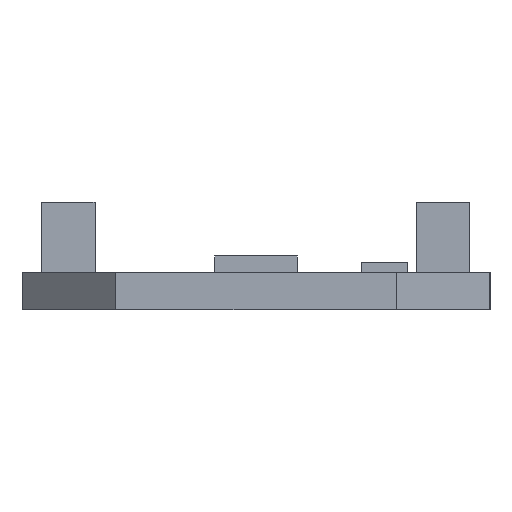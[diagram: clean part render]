
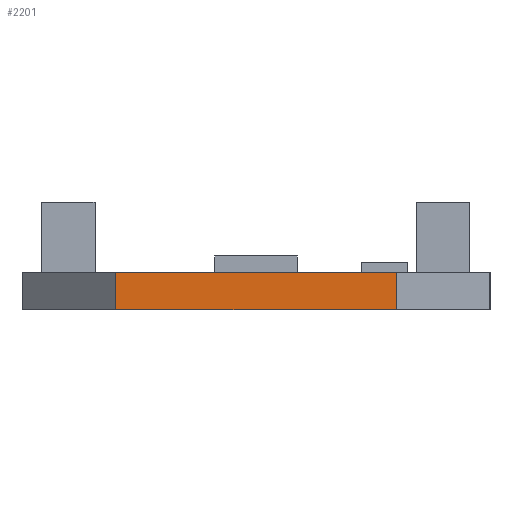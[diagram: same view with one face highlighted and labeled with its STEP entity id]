
A CAD part, left-side view. The second image highlights one B-rep face of the part: STEP entity #2201.
In plain terms, the highlighted planar face has unit normal (-1, 0, 0).
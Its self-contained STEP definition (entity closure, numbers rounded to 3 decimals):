
#2201 = ADVANCED_FACE ( 'NONE', ( #8991 ), #8764, .F. ) ;
#2751 = CARTESIAN_POINT ( 'NONE',  ( -0.007, 16., -1.6 ) ) ;
#2753 = LINE ( 'NONE', #27828, #5520 ) ;
#4727 = ORIENTED_EDGE ( 'NONE', *, *, #25449, .F. ) ;
#5289 = ORIENTED_EDGE ( 'NONE', *, *, #21859, .T. ) ;
#5488 = CARTESIAN_POINT ( 'NONE',  ( -0.007, 16., 0. ) ) ;
#5520 = VECTOR ( 'NONE', #23859, 1000. ) ;
#5972 = VERTEX_POINT ( 'NONE', #5488 ) ;
#6736 = VERTEX_POINT ( 'NONE', #28884 ) ;
#7948 = DIRECTION ( 'NONE',  ( 0., 0., 1. ) ) ;
#8764 = PLANE ( 'NONE',  #16057 ) ;
#8991 = FACE_OUTER_BOUND ( 'NONE', #39701, .T. ) ;
#14865 = DIRECTION ( 'NONE',  ( 0., -1., 0. ) ) ;
#16057 = AXIS2_PLACEMENT_3D ( 'NONE', #2751, #19456, #33635 ) ;
#16757 = CARTESIAN_POINT ( 'NONE',  ( -0.005, 3.995, 0. ) ) ;
#19456 = DIRECTION ( 'NONE',  ( 1., 0., 0. ) ) ;
#19565 = ORIENTED_EDGE ( 'NONE', *, *, #42800, .F. ) ;
#19803 = LINE ( 'NONE', #30275, #38991 ) ;
#19818 = VECTOR ( 'NONE', #14865, 1000. ) ;
#20822 = ORIENTED_EDGE ( 'NONE', *, *, #35750, .T. ) ;
#21859 = EDGE_CURVE ( 'NONE', #29324, #41334, #40213, .T. ) ;
#22571 = CARTESIAN_POINT ( 'NONE',  ( -0.005, 3.995, -1.6 ) ) ;
#23859 = DIRECTION ( 'NONE',  ( 0., -1., 0. ) ) ;
#25449 = EDGE_CURVE ( 'NONE', #6736, #5972, #19803, .T. ) ;
#27828 = CARTESIAN_POINT ( 'NONE',  ( -0.007, 16., 0. ) ) ;
#28884 = CARTESIAN_POINT ( 'NONE',  ( -0.007, 16., -1.6 ) ) ;
#29324 = VERTEX_POINT ( 'NONE', #29784 ) ;
#29784 = CARTESIAN_POINT ( 'NONE',  ( -0.005, 3.995, -1.6 ) ) ;
#30275 = CARTESIAN_POINT ( 'NONE',  ( -0.007, 16., -1.6 ) ) ;
#31393 = LINE ( 'NONE', #32983, #19818 ) ;
#32983 = CARTESIAN_POINT ( 'NONE',  ( -0.007, 16., -1.6 ) ) ;
#33635 = DIRECTION ( 'NONE',  ( 0., 0., -1. ) ) ;
#35750 = EDGE_CURVE ( 'NONE', #6736, #29324, #31393, .T. ) ;
#38107 = VECTOR ( 'NONE', #7948, 1000. ) ;
#38991 = VECTOR ( 'NONE', #44422, 1000. ) ;
#39701 = EDGE_LOOP ( 'NONE', ( #20822, #5289, #19565, #4727 ) ) ;
#40213 = LINE ( 'NONE', #22571, #38107 ) ;
#41334 = VERTEX_POINT ( 'NONE', #16757 ) ;
#42800 = EDGE_CURVE ( 'NONE', #5972, #41334, #2753, .T. ) ;
#44422 = DIRECTION ( 'NONE',  ( 0., 0., 1. ) ) ;
